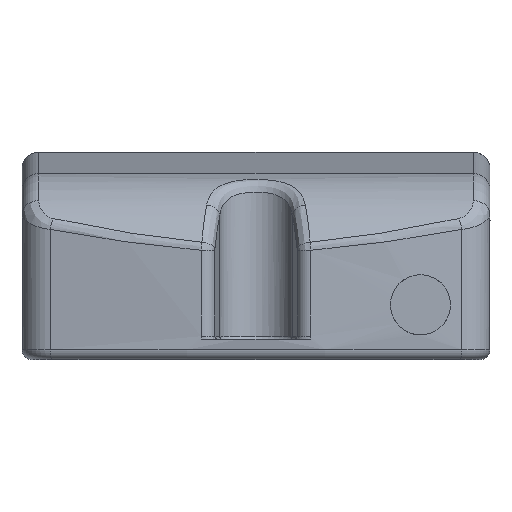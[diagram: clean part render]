
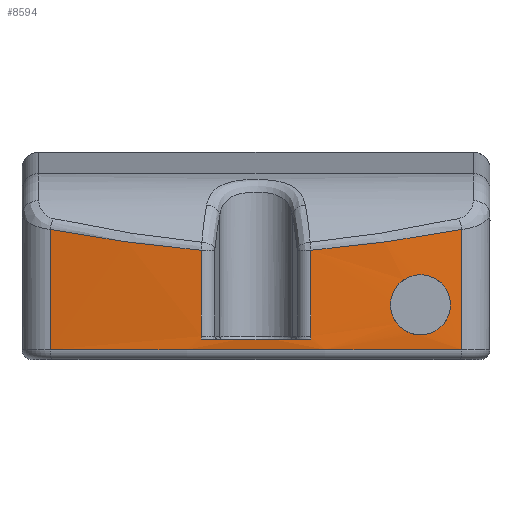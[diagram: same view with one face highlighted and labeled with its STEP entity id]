
A CAD part, left-side view. The second image highlights one B-rep face of the part: STEP entity #8594.
In plain terms, the highlighted cylindrical face has radius 200 mm (diameter 400 mm), a partial arc.
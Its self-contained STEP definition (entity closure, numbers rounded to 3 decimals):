
#194=CARTESIAN_POINT('',(195.,0.,3.));
#195=DIRECTION('',(0.,0.,-1.));
#196=DIRECTION('',(-0.999,-0.041,0.));
#197=AXIS2_PLACEMENT_3D('',#194,#195,#196);
#224=CARTESIAN_POINT('',(-3.987,-20.1,8.2));
#225=CARTESIAN_POINT('',(-3.987,-20.1,8.442));
#226=CARTESIAN_POINT('',(-3.984,-20.138,8.92));
#227=CARTESIAN_POINT('',(-3.966,-20.313,9.632));
#228=CARTESIAN_POINT('',(-3.936,-20.6,10.303));
#229=CARTESIAN_POINT('',(-3.896,-20.984,10.911));
#230=CARTESIAN_POINT('',(-3.846,-21.459,11.449));
#231=CARTESIAN_POINT('',(-3.784,-22.024,11.914));
#232=CARTESIAN_POINT('',(-3.711,-22.672,12.289));
#233=CARTESIAN_POINT('',(-3.628,-23.388,12.558));
#234=CARTESIAN_POINT('',(-3.532,-24.19,12.707));
#235=CARTESIAN_POINT('',(-3.429,-25.025,12.705));
#236=CARTESIAN_POINT('',(-3.326,-25.823,12.554));
#237=CARTESIAN_POINT('',(-3.232,-26.535,12.286));
#238=CARTESIAN_POINT('',(-3.145,-27.182,11.911));
#239=CARTESIAN_POINT('',(-3.066,-27.745,11.445));
#240=CARTESIAN_POINT('',(-3.,-28.218,10.908));
#241=CARTESIAN_POINT('',(-2.944,-28.602,10.3));
#242=CARTESIAN_POINT('',(-2.903,-28.888,9.63));
#243=CARTESIAN_POINT('',(-2.877,-29.062,8.919));
#244=CARTESIAN_POINT('',(-2.872,-29.1,8.442));
#245=CARTESIAN_POINT('',(-2.872,-29.1,8.2));
#250=CARTESIAN_POINT('',(-2.872,-29.1,8.2));
#251=CARTESIAN_POINT('',(-2.872,-29.1,7.958));
#252=CARTESIAN_POINT('',(-2.877,-29.062,7.481));
#253=CARTESIAN_POINT('',(-2.903,-28.888,6.77));
#254=CARTESIAN_POINT('',(-2.944,-28.602,6.1));
#255=CARTESIAN_POINT('',(-2.999,-28.218,5.493));
#256=CARTESIAN_POINT('',(-3.066,-27.745,4.955));
#257=CARTESIAN_POINT('',(-3.145,-27.181,4.489));
#258=CARTESIAN_POINT('',(-3.233,-26.533,4.113));
#259=CARTESIAN_POINT('',(-3.327,-25.818,3.844));
#260=CARTESIAN_POINT('',(-3.43,-25.016,3.694));
#261=CARTESIAN_POINT('',(-3.533,-24.181,3.694));
#262=CARTESIAN_POINT('',(-3.629,-23.382,3.844));
#263=CARTESIAN_POINT('',(-3.711,-22.67,4.112));
#264=CARTESIAN_POINT('',(-3.784,-22.023,4.486));
#265=CARTESIAN_POINT('',(-3.846,-21.459,4.951));
#266=CARTESIAN_POINT('',(-3.896,-20.985,5.488));
#267=CARTESIAN_POINT('',(-3.936,-20.6,6.097));
#268=CARTESIAN_POINT('',(-3.966,-20.313,6.768));
#269=CARTESIAN_POINT('',(-3.984,-20.138,7.481));
#270=CARTESIAN_POINT('',(-3.987,-20.1,7.958));
#271=CARTESIAN_POINT('',(-3.987,-20.1,8.2));
#276=CARTESIAN_POINT('',(-4.832,8.197,16.353));
#277=CARTESIAN_POINT('',(-4.781,9.443,16.445));
#278=CARTESIAN_POINT('',(-4.656,11.922,16.666));
#279=CARTESIAN_POINT('',(-4.402,15.599,17.088));
#280=CARTESIAN_POINT('',(-4.082,19.261,17.586));
#281=CARTESIAN_POINT('',(-3.697,22.89,18.138));
#282=CARTESIAN_POINT('',(-3.236,26.605,18.746));
#283=CARTESIAN_POINT('',(-2.84,29.349,19.22));
#284=CARTESIAN_POINT('',(-2.619,30.769,19.468));
#289=DIRECTION('',(0.,0.,-1.));
#290=VECTOR('',#289,12.853);
#291=CARTESIAN_POINT('',(-4.832,8.197,16.353));
#292=LINE('',#291,#290);
#296=CARTESIAN_POINT('',(-4.832,8.197,3.5));
#297=CARTESIAN_POINT('',(-4.832,8.197,3.415));
#298=CARTESIAN_POINT('',(-4.832,8.189,3.247));
#299=CARTESIAN_POINT('',(-4.833,8.163,3.082));
#300=CARTESIAN_POINT('',(-4.834,8.146,3.));
#305=CARTESIAN_POINT('',(-4.834,-8.146,3.));
#306=CARTESIAN_POINT('',(-4.833,-8.163,3.081));
#307=CARTESIAN_POINT('',(-4.832,-8.188,3.245));
#308=CARTESIAN_POINT('',(-4.832,-8.197,3.414));
#309=CARTESIAN_POINT('',(-4.832,-8.197,3.5));
#314=DIRECTION('',(0.,0.,1.));
#315=VECTOR('',#314,12.853);
#316=CARTESIAN_POINT('',(-4.832,-8.197,3.5));
#317=LINE('',#316,#315);
#321=CARTESIAN_POINT('',(-4.832,-8.197,16.353));
#322=CARTESIAN_POINT('',(-4.781,-9.442,16.445));
#323=CARTESIAN_POINT('',(-4.656,-11.921,16.665));
#324=CARTESIAN_POINT('',(-4.402,-15.599,17.088));
#325=CARTESIAN_POINT('',(-4.082,-19.259,17.585));
#326=CARTESIAN_POINT('',(-3.697,-22.887,18.137));
#327=CARTESIAN_POINT('',(-3.236,-26.604,18.746));
#328=CARTESIAN_POINT('',(-2.84,-29.348,19.219));
#329=CARTESIAN_POINT('',(-2.619,-30.769,19.468));
#334=DIRECTION('',(0.,0.,-1.));
#335=VECTOR('',#334,17.968);
#336=CARTESIAN_POINT('',(-2.619,-30.769,19.468));
#337=LINE('',#336,#335);
#341=CARTESIAN_POINT('',(195.,0.,1.5));
#342=DIRECTION('',(0.,0.,-1.));
#343=DIRECTION('',(-0.988,-0.154,0.));
#344=AXIS2_PLACEMENT_3D('',#341,#342,#343);
#349=DIRECTION('',(0.,0.,1.));
#350=VECTOR('',#349,17.968);
#351=CARTESIAN_POINT('',(-2.619,30.769,1.5));
#352=LINE('',#351,#350);
#482=CARTESIAN_POINT('',(-2.619,-30.769,19.468));
#7050=CARTESIAN_POINT('',(-4.834,-8.146,
3.));
#7126=CARTESIAN_POINT('',(-4.834,8.146,3.));
#7643=CARTESIAN_POINT('',(-2.619,-30.769,1.5));
#7644=CARTESIAN_POINT('',(-2.619,30.769,1.5));
#7645=VERTEX_POINT('',#7643);
#7646=VERTEX_POINT('',#7644);
#7699=VERTEX_POINT('',#224);
#7700=VERTEX_POINT('',#245);
#7729=VERTEX_POINT('',#276);
#7730=VERTEX_POINT('',#284);
#7817=VERTEX_POINT('',#7050);
#7826=CARTESIAN_POINT('',(-4.832,-8.197,
16.353));
#7828=VERTEX_POINT('',#7826);
#8235=VERTEX_POINT('',#482);
#8238=CARTESIAN_POINT('',(-4.832,-8.197,
3.5));
#8239=VERTEX_POINT('',#8238);
#8253=VERTEX_POINT('',#7126);
#8275=CARTESIAN_POINT('',(-4.832,8.197,3.5));
#8276=VERTEX_POINT('',#8275);
#8562=CARTESIAN_POINT('',(195.,0.,0.));
#8563=DIRECTION('',(0.,0.,-1.));
#8564=DIRECTION('',(0.,-1.,0.));
#8565=AXIS2_PLACEMENT_3D('',#8562,#8563,#8564);
#8566=CYLINDRICAL_SURFACE('',#8565,200.);
#8568=ORIENTED_EDGE('',*,*,#8567,.F.);
#8570=ORIENTED_EDGE('',*,*,#8569,.T.);
#8572=ORIENTED_EDGE('',*,*,#8571,.T.);
#8573=ORIENTED_EDGE('',*,*,#8543,.F.);
#8575=ORIENTED_EDGE('',*,*,#8574,.T.);
#8577=ORIENTED_EDGE('',*,*,#8576,.T.);
#8579=ORIENTED_EDGE('',*,*,#8578,.T.);
#8581=ORIENTED_EDGE('',*,*,#8580,.T.);
#8583=ORIENTED_EDGE('',*,*,#8582,.T.);
#8585=ORIENTED_EDGE('',*,*,#8584,.T.);
#8586=EDGE_LOOP('',(#8568,#8570,#8572,#8573,#8575,#8577,#8579,#8581,#8583,
#8585));
#8587=FACE_OUTER_BOUND('',#8586,.F.);
#8589=ORIENTED_EDGE('',*,*,#8588,.F.);
#8591=ORIENTED_EDGE('',*,*,#8590,.F.);
#8592=EDGE_LOOP('',(#8589,#8591));
#8593=FACE_BOUND('',#8592,.F.);
#198=CIRCLE('',#197,200.);
#246=B_SPLINE_CURVE_WITH_KNOTS('',3,(#224,#225,#226,#227,#228,#229,#230,#231,
#232,#233,#234,#235,#236,#237,#238,#239,#240,#241,#242,#243,#244,#245),
.UNSPECIFIED.,.F.,.F.,(4,1,1,1,1,1,1,1,1,1,1,1,1,1,1,1,1,1,1,4),(0.,
0.053,0.105,0.158,0.211,
0.263,0.316,0.368,0.421,
0.474,0.526,0.579,0.632,
0.684,0.737,0.789,0.842,
0.895,0.947,1.),.UNSPECIFIED.);
#272=B_SPLINE_CURVE_WITH_KNOTS('',3,(#250,#251,#252,#253,#254,#255,#256,#257,
#258,#259,#260,#261,#262,#263,#264,#265,#266,#267,#268,#269,#270,#271),
.UNSPECIFIED.,.F.,.F.,(4,1,1,1,1,1,1,1,1,1,1,1,1,1,1,1,1,1,1,4),(0.,
0.053,0.105,0.158,0.211,
0.263,0.316,0.368,0.421,
0.474,0.526,0.579,0.632,
0.684,0.737,0.789,0.842,
0.895,0.947,1.),.UNSPECIFIED.);
#285=B_SPLINE_CURVE_WITH_KNOTS('',3,(#276,#277,#278,#279,#280,#281,#282,#283,
#284),.UNSPECIFIED.,.F.,.F.,(4,1,1,1,1,1,4),(0.,0.167,
0.333,0.5,0.667,0.833,1.),
.UNSPECIFIED.);
#301=B_SPLINE_CURVE_WITH_KNOTS('',3,(#296,#297,#298,#299,#300),.UNSPECIFIED.,
.F.,.F.,(4,1,4),(0.,0.5,1.),.UNSPECIFIED.);
#310=B_SPLINE_CURVE_WITH_KNOTS('',3,(#305,#306,#307,#308,#309),.UNSPECIFIED.,
.F.,.F.,(4,1,4),(0.,0.5,1.),.UNSPECIFIED.);
#330=B_SPLINE_CURVE_WITH_KNOTS('',3,(#321,#322,#323,#324,#325,#326,#327,#328,
#329),.UNSPECIFIED.,.F.,.F.,(4,1,1,1,1,1,4),(0.,0.167,
0.333,0.5,0.667,0.833,1.),
.UNSPECIFIED.);
#345=CIRCLE('',#344,200.);
#8543=EDGE_CURVE('',#7817,#8253,#198,.T.);
#8567=EDGE_CURVE('',#7729,#7730,#285,.T.);
#8569=EDGE_CURVE('',#7729,#8276,#292,.T.);
#8571=EDGE_CURVE('',#8276,#8253,#301,.T.);
#8574=EDGE_CURVE('',#7817,#8239,#310,.T.);
#8576=EDGE_CURVE('',#8239,#7828,#317,.T.);
#8578=EDGE_CURVE('',#7828,#8235,#330,.T.);
#8580=EDGE_CURVE('',#8235,#7645,#337,.T.);
#8582=EDGE_CURVE('',#7645,#7646,#345,.T.);
#8584=EDGE_CURVE('',#7646,#7730,#352,.T.);
#8588=EDGE_CURVE('',#7699,#7700,#246,.T.);
#8590=EDGE_CURVE('',#7700,#7699,#272,.T.);
#8594=ADVANCED_FACE('',(#8587,#8593),#8566,.T.);
